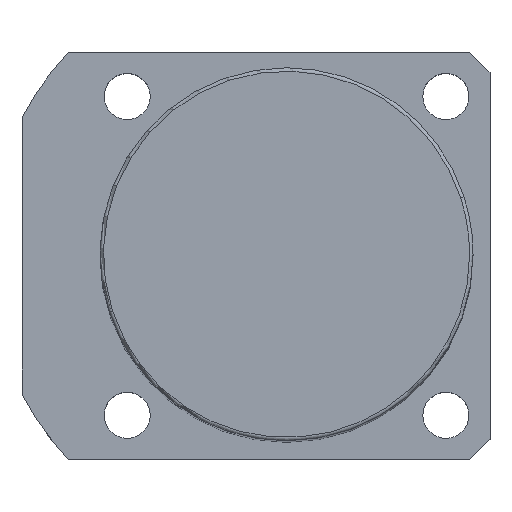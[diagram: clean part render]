
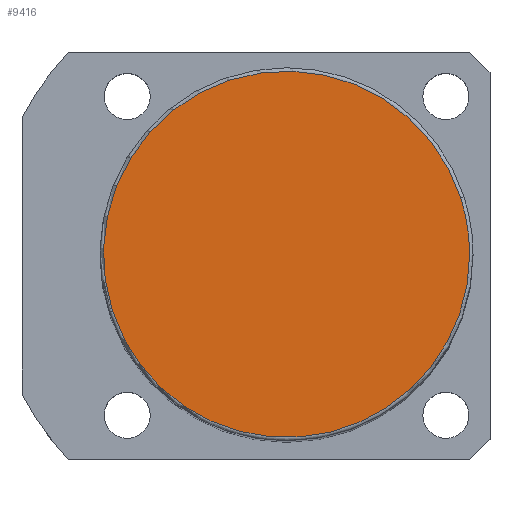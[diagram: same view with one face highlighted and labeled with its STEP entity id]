
A CAD part, top view. The second image highlights one B-rep face of the part: STEP entity #9416.
In plain terms, the highlighted planar face has unit normal (0, 0, 1).
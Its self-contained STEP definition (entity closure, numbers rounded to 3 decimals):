
#9349=CARTESIAN_POINT('',(25.679,8.343,146.0));
#9350=VERTEX_POINT('',#9349);
#9368=CARTESIAN_POINT('',(-25.679,-8.343,146.0));
#9369=VERTEX_POINT('',#9368);
#9377=CARTESIAN_POINT('',(0.0,0.0,146.0));
#9378=DIRECTION('',(0.0,0.0,1.0));
#9379=DIRECTION('',(1.0,0.0,0.0));
#9380=AXIS2_PLACEMENT_3D('',#9377,#9378,#9379);
#9381=CIRCLE('',#9380,27.0);
#9382=EDGE_CURVE('no 4563',#9350,#9369,#9381,.T.);
#9392=CARTESIAN_POINT('',(27.0,0.0,146.0));
#9393=VERTEX_POINT('',#9392);
#9394=CARTESIAN_POINT('',(0.0,0.0,146.0));
#9395=DIRECTION('',(0.0,0.0,1.0));
#9396=DIRECTION('',(1.0,0.0,0.0));
#9397=AXIS2_PLACEMENT_3D('',#9394,#9395,#9396);
#9398=CIRCLE('',#9397,27.0);
#9399=EDGE_CURVE('no 4572',#9393,#9350,#9398,.T.);
#9400=ORIENTED_EDGE('',*,*,#9399,.T.);
#9401=ORIENTED_EDGE('',*,*,#9382,.T.);
#9402=CARTESIAN_POINT('',(0.0,0.0,146.0));
#9403=DIRECTION('',(0.0,0.0,1.0));
#9404=DIRECTION('',(1.0,0.0,0.0));
#9405=AXIS2_PLACEMENT_3D('',#9402,#9403,#9404);
#9406=CIRCLE('',#9405,27.0);
#9407=EDGE_CURVE('no 4578',#9369,#9393,#9406,.T.);
#9408=ORIENTED_EDGE('',*,*,#9407,.T.);
#9409=EDGE_LOOP('',(#9400,#9401,#9408));
#9410=FACE_OUTER_BOUND('',#9409,.T.);
#9411=CARTESIAN_POINT('',(0.0,0.0,146.0));
#9412=DIRECTION('',(0.0,0.0,1.0));
#9413=DIRECTION('',(1.0,0.0,0.0));
#9414=AXIS2_PLACEMENT_3D('',#9411,#9412,#9413);
#9415=PLANE('',#9414);
#9416=ADVANCED_FACE('no 4565',(#9410),#9415,.T.);
